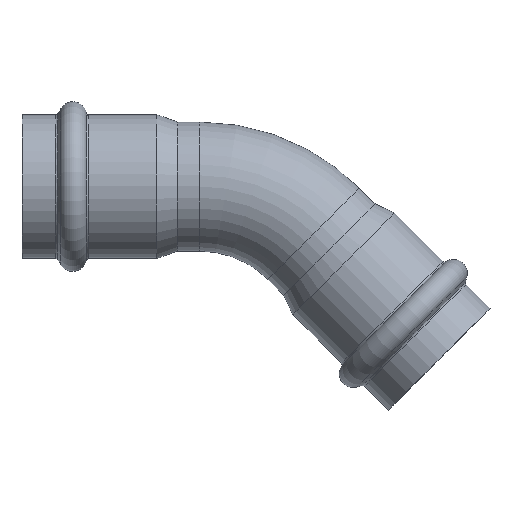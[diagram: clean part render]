
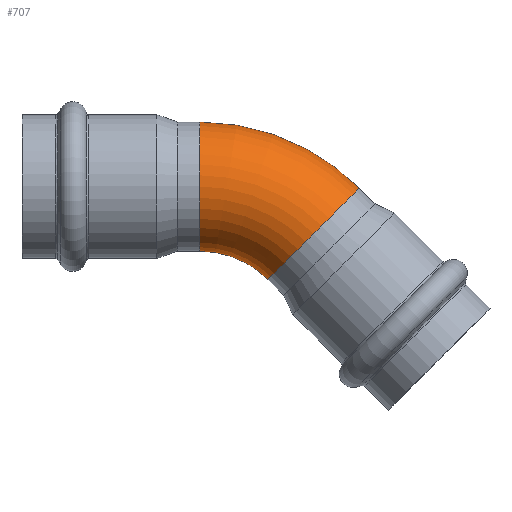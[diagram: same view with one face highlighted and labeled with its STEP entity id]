
A CAD part, top view. The second image highlights one B-rep face of the part: STEP entity #707.
In plain terms, the highlighted toroidal (fillet/blend) face has major radius 35 mm and minor radius 14 mm.
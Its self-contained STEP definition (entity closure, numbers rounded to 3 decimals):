
#680=CARTESIAN_POINT('',(0.,-35.0,0.0));
#681=DIRECTION('',(0.0,0.0,-1.0));
#682=DIRECTION('',(-1.0,0.0,0.0));
#683=AXIS2_PLACEMENT_3D('',#680,#681,#682);
#684=TOROIDAL_SURFACE('',#683,35.0,14.0);
#685=CARTESIAN_POINT('',(34.648,-0.352,0.0));
#686=VERTEX_POINT('',#685);
#687=CARTESIAN_POINT('',(24.749,-10.251,0.0));
#688=DIRECTION('',(0.707,-0.707,0.0));
#689=DIRECTION('',(0.707,0.707,0.0));
#690=AXIS2_PLACEMENT_3D('',#687,#688,#689);
#691=CIRCLE('',#690,14.);
#692=EDGE_CURVE('',#686,#686,#691,.T.);
#693=ORIENTED_EDGE('',*,*,#692,.F.);
#694=EDGE_LOOP('',(#693));
#695=FACE_OUTER_BOUND('',#694,.T.);
#696=CARTESIAN_POINT('',(0.,14.0,0.0));
#697=VERTEX_POINT('',#696);
#698=CARTESIAN_POINT('',(0.0,0.0,0.0));
#699=DIRECTION('',(1.0,0.0,0.0));
#700=DIRECTION('',(0.0,1.0,0.0));
#701=AXIS2_PLACEMENT_3D('',#698,#699,#700);
#702=CIRCLE('',#701,14.0);
#703=EDGE_CURVE('',#697,#697,#702,.T.);
#704=ORIENTED_EDGE('',*,*,#703,.T.);
#705=EDGE_LOOP('',(#704));
#706=FACE_BOUND('',#705,.T.);
#707=ADVANCED_FACE('',(#695,#706),#684,.T.);
